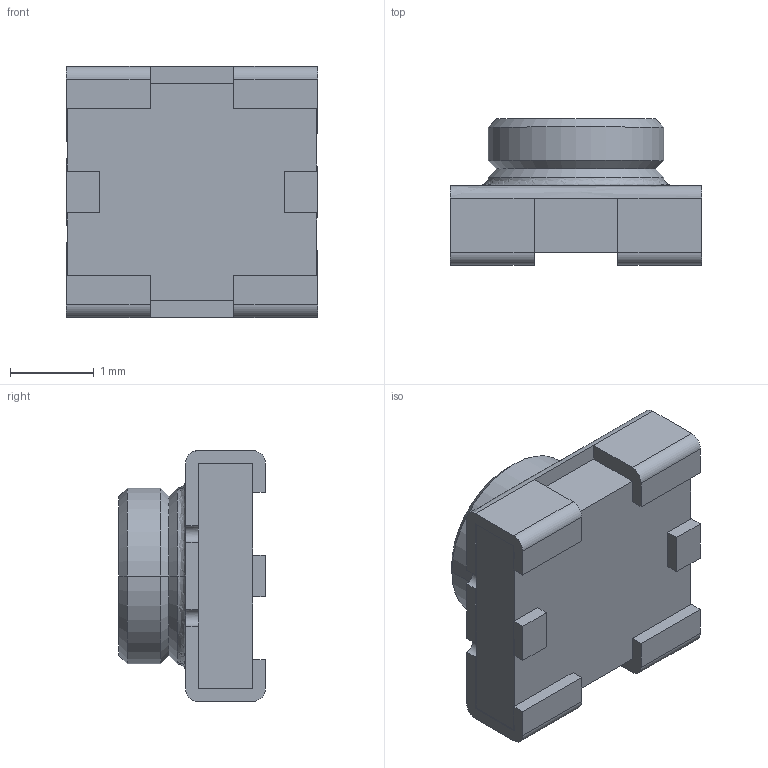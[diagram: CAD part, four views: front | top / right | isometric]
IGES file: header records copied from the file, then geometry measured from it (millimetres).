
Start section:  PTC IGES file: mm8430-2600b_prt.igs
Global section: file name: mm8430-2600b_prt.igs; native system: Pro/ENGINEER by Parametric Technology Corporation; preprocessor: 2006170; author: GRA; organization: Unknown; date: 20080630.105204; units: millimetre
Bounding box: 3 x 1.75 x 3 mm (x, y, z)
Surface area: 36.3 mm2 (no closed solid volume)
Topology: 0 solids, 0 shells, 90 faces, 456 edges, 456 vertices
Faces by surface type: bspline 68, revolution 22
